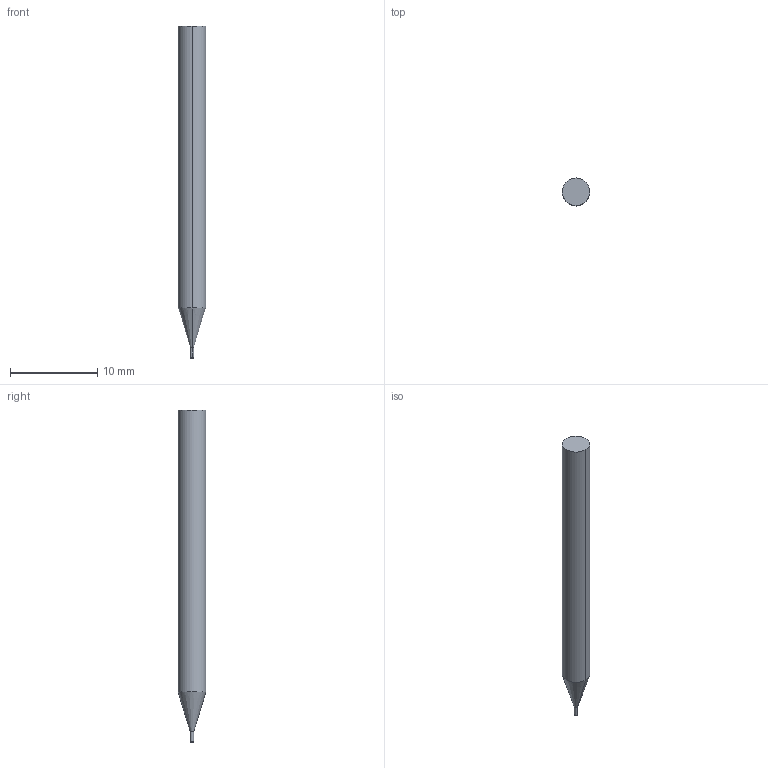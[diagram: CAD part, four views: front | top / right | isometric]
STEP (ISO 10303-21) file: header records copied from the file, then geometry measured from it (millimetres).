
FILE_DESCRIPTION((' '),'2;1');
FILE_NAME( '3MVR0156R.003AH.stp', '2026-01-21T19:04:57', (' '), ('--- Datakit www.datakit.com---'), ' Datakit CrossCadWare V2025.4 Sep 19 2025', 'Mastercam 2027', ' ');
FILE_SCHEMA(('AUTOMOTIVE_DESIGN { 1 0 10303 214 1 1 1 1 }'));
Length unit declared in the file: inch
Products named in the file (1): 3MVR0156R
Bounding box: 3.17 x 3.17 x 38.1 mm (x, y, z)
Volume: 270 mm3; surface area: 358.9 mm2
Topology: 1 solids, 1 shells, 10 faces, 18 edges, 10 vertices
Faces by surface type: cylinder 4, plane 2, torus 2, cone 2
Entity records: 318 total; most frequent: DIRECTION 60, CARTESIAN_POINT 43, ORIENTED_EDGE 36, AXIS2_PLACEMENT_3D 27, EDGE_CURVE 18, CIRCLE 12, VERTEX_POINT 10, EDGE_LOOP 10
